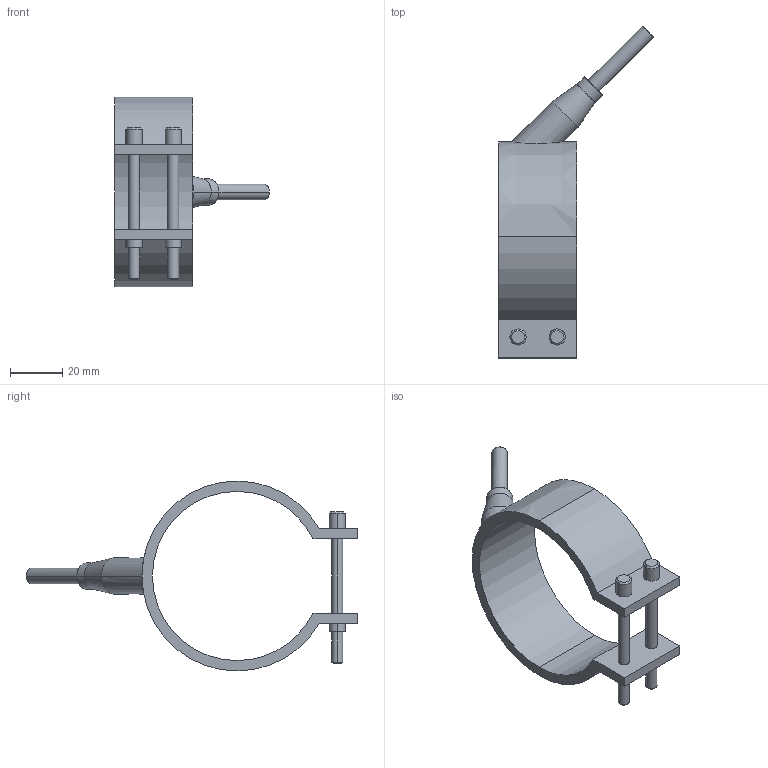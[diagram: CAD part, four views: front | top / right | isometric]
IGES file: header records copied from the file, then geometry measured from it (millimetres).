
Start section: START RECORD GO HERE.
Global section: file name: 29065030.igs; native system: DASSAULT SYSTEMES CATIA V5 R20 - www.3ds.com; preprocessor: CATIA Version 5 Release 20 ; author: Utente; organization: NB04-ASUS; date: 20210327.104856; units: millimetre
Bounding box: 59.55 x 127.55 x 73 mm (x, y, z)
Surface area: 17927.8 mm2 (no closed solid volume)
Topology: 0 solids, 0 shells, 54 faces, 252 edges, 252 vertices
Faces by surface type: revolution 38, plane 16
